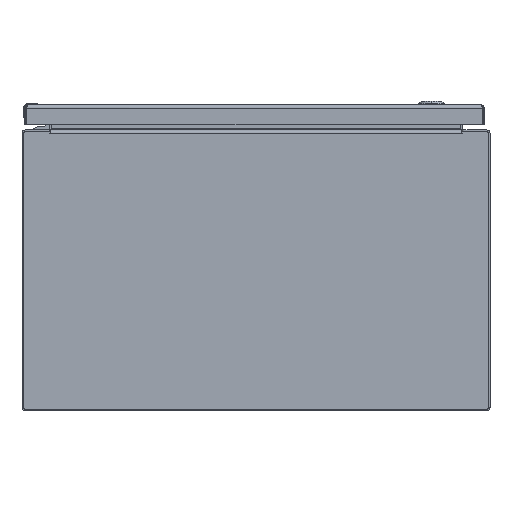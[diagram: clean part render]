
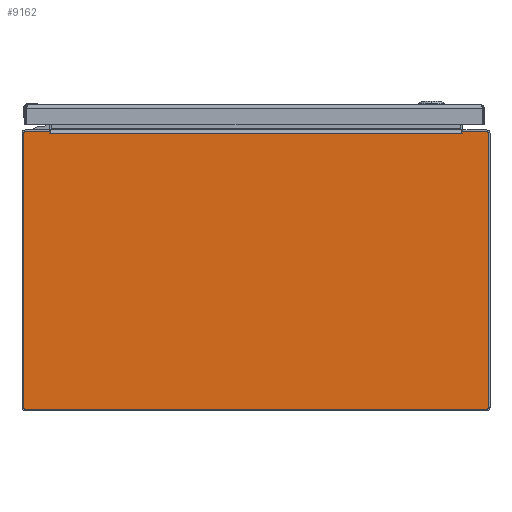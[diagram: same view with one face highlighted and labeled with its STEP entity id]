
A CAD part, front view. The second image highlights one B-rep face of the part: STEP entity #9162.
In plain terms, the highlighted planar face has unit normal (0, -1, 0).
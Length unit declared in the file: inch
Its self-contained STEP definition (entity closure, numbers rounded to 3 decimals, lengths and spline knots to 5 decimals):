
#7945=CARTESIAN_POINT('',(-9.857,0.,5.857));
#7946=DIRECTION('',(0.,-1.,0.));
#7947=DIRECTION('',(0.,0.,1.));
#7948=AXIS2_PLACEMENT_3D('',#7945,#7946,#7947);
#7953=DIRECTION('',(-1.,0.,0.));
#7954=VECTOR('',#7953,1.02894);
#7955=CARTESIAN_POINT('',(-8.82806,0.,5.937));
#7956=LINE('',#7955,#7954);
#7960=DIRECTION('',(0.174,0.,-0.985));
#7961=VECTOR('',#7960,0.08326);
#7962=CARTESIAN_POINT('',(-8.82806,0.,5.937));
#7963=LINE('',#7962,#7961);
#7967=DIRECTION('',(-1.,0.,0.));
#7968=VECTOR('',#7967,0.0156);
#7969=CARTESIAN_POINT('',(-8.798,0.,5.855));
#7970=LINE('',#7969,#7968);
#7974=DIRECTION('',(1.,0.,0.));
#7975=VECTOR('',#7974,0.0156);
#7976=CARTESIAN_POINT('',(8.798,0.,5.855));
#7977=LINE('',#7976,#7975);
#7981=DIRECTION('',(-0.174,0.,-0.985));
#7982=VECTOR('',#7981,0.08326);
#7983=CARTESIAN_POINT('',(8.82806,0.,5.937));
#7984=LINE('',#7983,#7982);
#7988=DIRECTION('',(-1.,0.,0.));
#7989=VECTOR('',#7988,1.02894);
#7990=CARTESIAN_POINT('',(9.857,0.,5.937));
#7991=LINE('',#7990,#7989);
#7995=CARTESIAN_POINT('',(9.857,0.,5.857));
#7996=DIRECTION('',(0.,-1.,0.));
#7997=DIRECTION('',(1.,0.,0.));
#7998=AXIS2_PLACEMENT_3D('',#7995,#7996,#7997);
#8003=DIRECTION('',(0.,0.,1.));
#8004=VECTOR('',#8003,11.714);
#8005=CARTESIAN_POINT('',(9.937,0.,-5.857));
#8006=LINE('',#8005,#8004);
#8010=CARTESIAN_POINT('',(9.857,0.,-5.857));
#8011=DIRECTION('',(0.,-1.,0.));
#8012=DIRECTION('',(0.,0.,-1.));
#8013=AXIS2_PLACEMENT_3D('',#8010,#8011,#8012);
#8018=DIRECTION('',(1.,0.,0.));
#8019=VECTOR('',#8018,19.714);
#8020=CARTESIAN_POINT('',(-9.857,0.,-5.937));
#8021=LINE('',#8020,#8019);
#8025=CARTESIAN_POINT('',(-9.857,0.,-5.857));
#8026=DIRECTION('',(0.,-1.,0.));
#8027=DIRECTION('',(-1.,0.,0.));
#8028=AXIS2_PLACEMENT_3D('',#8025,#8026,#8027);
#8033=DIRECTION('',(0.,0.,-1.));
#8034=VECTOR('',#8033,11.714);
#8035=CARTESIAN_POINT('',(-9.937,0.,5.857));
#8036=LINE('',#8035,#8034);
#8314=DIRECTION('',(1.,0.,0.));
#8315=VECTOR('',#8314,17.596);
#8316=CARTESIAN_POINT('',(-8.798,0.,5.855));
#8317=LINE('',#8316,#8315);
#8975=CARTESIAN_POINT('',(8.798,0.,5.855));
#8976=CARTESIAN_POINT('',(8.8136,0.,5.855));
#8977=VERTEX_POINT('',#8975);
#8978=VERTEX_POINT('',#8976);
#8979=CARTESIAN_POINT('',(8.82806,0.,5.937));
#8980=VERTEX_POINT('',#8979);
#8987=CARTESIAN_POINT('',(-8.798,0.,5.855));
#8988=CARTESIAN_POINT('',(-8.8136,0.,5.855));
#8989=VERTEX_POINT('',#8987);
#8990=VERTEX_POINT('',#8988);
#8991=CARTESIAN_POINT('',(-8.82806,0.,5.937));
#8992=VERTEX_POINT('',#8991);
#9051=CARTESIAN_POINT('',(-9.857,0.,5.937));
#9052=CARTESIAN_POINT('',(-9.937,0.,5.857));
#9053=VERTEX_POINT('',#9051);
#9054=VERTEX_POINT('',#9052);
#9059=CARTESIAN_POINT('',(-9.937,0.,-5.857));
#9060=CARTESIAN_POINT('',(-9.857,0.,-5.937));
#9061=VERTEX_POINT('',#9059);
#9062=VERTEX_POINT('',#9060);
#9067=CARTESIAN_POINT('',(9.857,0.,-5.937));
#9068=CARTESIAN_POINT('',(9.937,0.,-5.857));
#9069=VERTEX_POINT('',#9067);
#9070=VERTEX_POINT('',#9068);
#9075=CARTESIAN_POINT('',(9.937,0.,5.857));
#9076=CARTESIAN_POINT('',(9.857,0.,5.937));
#9077=VERTEX_POINT('',#9075);
#9078=VERTEX_POINT('',#9076);
#9127=CARTESIAN_POINT('',(0.,0.,0.));
#9128=DIRECTION('',(0.,-1.,0.));
#9129=DIRECTION('',(-1.,0.,0.));
#9130=AXIS2_PLACEMENT_3D('',#9127,#9128,#9129);
#9131=PLANE('',#9130);
#9133=ORIENTED_EDGE('',*,*,#9132,.F.);
#9135=ORIENTED_EDGE('',*,*,#9134,.F.);
#9137=ORIENTED_EDGE('',*,*,#9136,.T.);
#9139=ORIENTED_EDGE('',*,*,#9138,.F.);
#9141=ORIENTED_EDGE('',*,*,#9140,.T.);
#9143=ORIENTED_EDGE('',*,*,#9142,.T.);
#9145=ORIENTED_EDGE('',*,*,#9144,.F.);
#9147=ORIENTED_EDGE('',*,*,#9146,.F.);
#9149=ORIENTED_EDGE('',*,*,#9148,.F.);
#9151=ORIENTED_EDGE('',*,*,#9150,.F.);
#9153=ORIENTED_EDGE('',*,*,#9152,.F.);
#9155=ORIENTED_EDGE('',*,*,#9154,.F.);
#9157=ORIENTED_EDGE('',*,*,#9156,.F.);
#9159=ORIENTED_EDGE('',*,*,#9158,.F.);
#9160=EDGE_LOOP('',(#9133,#9135,#9137,#9139,#9141,#9143,#9145,#9147,#9149,#9151,
#9153,#9155,#9157,#9159));
#9161=FACE_OUTER_BOUND('',#9160,.F.);
#7949=CIRCLE('',#7948,0.08);
#7999=CIRCLE('',#7998,0.08);
#8014=CIRCLE('',#8013,0.08);
#8029=CIRCLE('',#8028,0.08);
#9132=EDGE_CURVE('',#9053,#9054,#7949,.T.);
#9134=EDGE_CURVE('',#8992,#9053,#7956,.T.);
#9136=EDGE_CURVE('',#8992,#8990,#7963,.T.);
#9138=EDGE_CURVE('',#8989,#8990,#7970,.T.);
#9140=EDGE_CURVE('',#8989,#8977,#8317,.T.);
#9142=EDGE_CURVE('',#8977,#8978,#7977,.T.);
#9144=EDGE_CURVE('',#8980,#8978,#7984,.T.);
#9146=EDGE_CURVE('',#9078,#8980,#7991,.T.);
#9148=EDGE_CURVE('',#9077,#9078,#7999,.T.);
#9150=EDGE_CURVE('',#9070,#9077,#8006,.T.);
#9152=EDGE_CURVE('',#9069,#9070,#8014,.T.);
#9154=EDGE_CURVE('',#9062,#9069,#8021,.T.);
#9156=EDGE_CURVE('',#9061,#9062,#8029,.T.);
#9158=EDGE_CURVE('',#9054,#9061,#8036,.T.);
#9162=ADVANCED_FACE('',(#9161),#9131,.T.);
